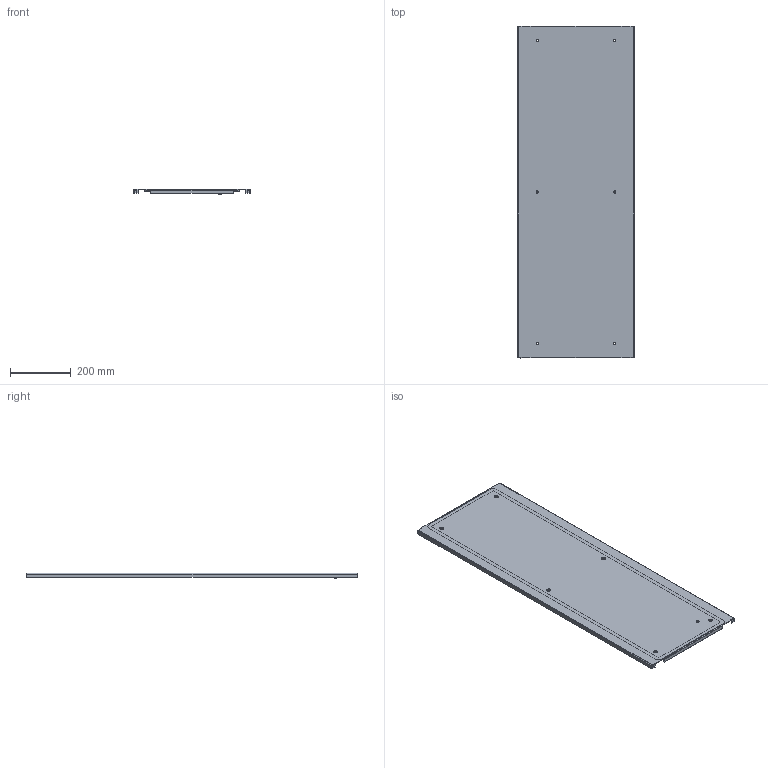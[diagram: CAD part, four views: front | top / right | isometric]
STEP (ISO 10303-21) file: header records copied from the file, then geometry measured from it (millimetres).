
FILE_DESCRIPTION(('STEP AP203'), '1');
FILE_NAME('Ïàíåëü ëèöåâàÿ ãëóõàÿ 500õ1000 ìì OptiBox M 419499 ÊÝÀÇ', '', ('UNSPECIFIED'), ('UNSPECIFIED'), 'C3D Converter', 'C3D Toolkit', '');
FILE_SCHEMA(('CONFIG_CONTROL_DESIGN'));
Length unit declared in the file: millimetre
Bounding box: 386.4 x 1097 x 18.9 mm (x, y, z)
Volume: 832669.3 mm3; surface area: 1008148.6 mm2
Topology: 3 solids, 3 shells, 174 faces, 397 edges, 238 vertices
Faces by surface type: plane 111, cylinder 55, bspline 8
Full cylindrical faces by diameter (mm): 0.75 x1, 1 x1, 5 x2, 7.3 x6, 8 x1, 9.3 x1, 13 x1, 13.5 x6
Entity records: 5888 total; most frequent: CARTESIAN_POINT 2027, ORIENTED_EDGE 756, DIRECTION 754, EDGE_CURVE 378, LINE 264, VECTOR 264, AXIS2_PLACEMENT_3D 245, VERTEX_POINT 238
